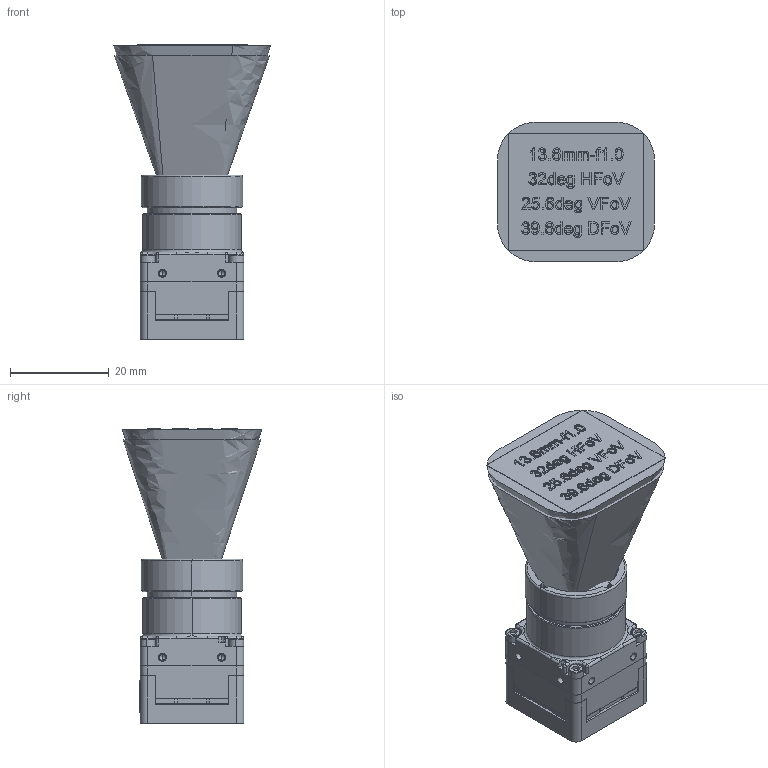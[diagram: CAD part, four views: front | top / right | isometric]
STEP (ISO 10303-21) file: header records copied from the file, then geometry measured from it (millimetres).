
FILE_DESCRIPTION (( 'STEP AP214' ), '1' );
FILE_NAME ('Boson 640SLS, 13.6mm-f1.0, 32deg HFoV.STEP', '2018-09-26T15:38:33', ( '' ), ( '' ), 'SwSTEP 2.0', 'SolidWorks 2018', '' );
FILE_SCHEMA (( 'AUTOMOTIVE_DESIGN' ));
Length unit declared in the file: millimetre
Products named in the file (9): Boson 640SLS, 13.6mm-f1.0, 32deg HFoV; Optical Area 13.0mm-f1.0, Boson 640 Aero; Lens Holder, M18x0.5-BosonSL 640 Mach; Boson Frame, Main Board; PCBA Boson Main; Label, Boson Camera 9Hz; Sensor Module, Boson 640; Lens Assy, 13mm-f1.0; socket head cap screw_M-1.6 x 0.35x10mm L
Assembly tree (11 placements, depth 2):
  Boson 640SLS, 13.6mm-f1.0, 32deg HFoV
    Sensor Module, Boson 640
    Boson Frame, Main Board
    PCBA Boson Main
    Label, Boson Camera 9Hz
    Lens Assy, 13mm-f1.0
    Lens Holder, M18x0.5-BosonSL 640 Mach
    socket head cap screw_M-1.6 x 0.35x10mm L  x4
    Optical Area 13.0mm-f1.0, Boson 640 Aero
Bounding box: 31.84 x 28.27 x 59.76 mm (x, y, z)
Volume: 29773.3 mm3; surface area: 15891.5 mm2
Topology: 14 solids, 15 shells, 3704 faces, 10085 edges, 6615 vertices
Faces by surface type: plane 2208, bspline 683, cylinder 625, cone 166, torus 22
Entity records: 178320 total; most frequent: CARTESIAN_POINT 59433, ORIENTED_EDGE 19744, DIRECTION 15722, EDGE_CURVE 9872, VECTOR 6990, LINE 6990, VERTEX_POINT 6510, AXIS2_PLACEMENT_3D 4366
